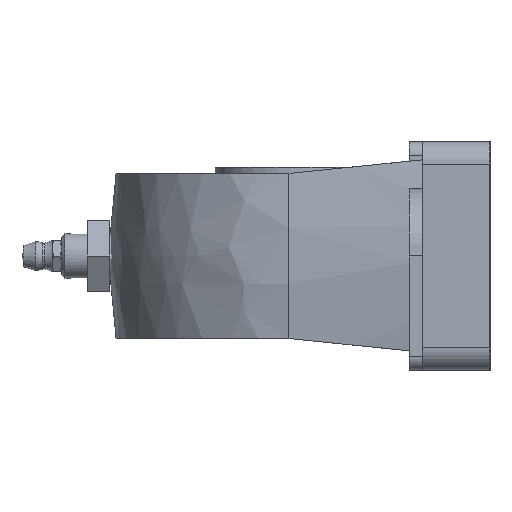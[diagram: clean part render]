
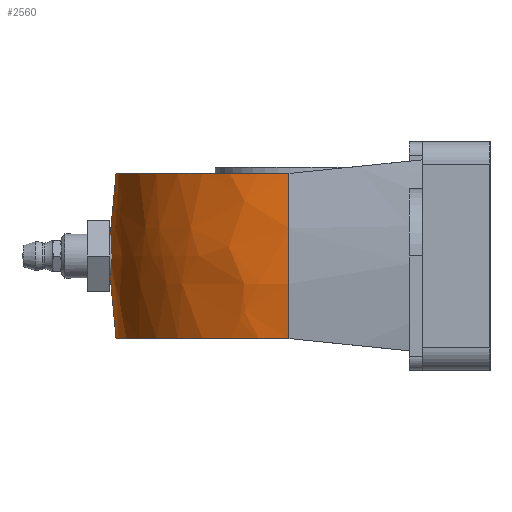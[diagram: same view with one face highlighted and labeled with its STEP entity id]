
A CAD part, left-side view. The second image highlights one B-rep face of the part: STEP entity #2560.
In plain terms, the highlighted free-form (B-spline) face has degree [2, 2] with [3, 5] control points.
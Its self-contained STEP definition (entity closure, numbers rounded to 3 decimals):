
#153=CARTESIAN_POINT('',(0.,40.527,4.188));
#154=VERTEX_POINT('',#153);
#155=CARTESIAN_POINT('',(0.,40.527,4.188));
#156=CARTESIAN_POINT('',(0.,40.527,4.188));
#157=CARTESIAN_POINT('',(-0.001,40.527,4.188));
#158=CARTESIAN_POINT('',(-0.043,40.527,4.188));
#159=CARTESIAN_POINT('',(-0.085,40.527,4.187));
#160=CARTESIAN_POINT('',(-0.188,40.527,4.184));
#161=CARTESIAN_POINT('',(-0.249,40.526,4.181));
#162=CARTESIAN_POINT('',(-0.452,40.525,4.166));
#163=CARTESIAN_POINT('',(-0.594,40.524,4.148));
#164=CARTESIAN_POINT('',(-1.253,40.516,4.031));
#165=CARTESIAN_POINT('',(-1.749,40.504,3.842));
#166=CARTESIAN_POINT('',(-2.628,40.472,3.3));
#167=CARTESIAN_POINT('',(-3.008,40.454,2.958));
#168=CARTESIAN_POINT('',(-3.653,40.419,2.121));
#169=CARTESIAN_POINT('',(-3.899,40.403,1.624));
#170=CARTESIAN_POINT('',(-4.185,40.384,0.568));
#171=CARTESIAN_POINT('',(-4.223,40.381,0.02));
#172=CARTESIAN_POINT('',(-4.092,40.39,-1.025));
#173=CARTESIAN_POINT('',(-3.938,40.401,-1.513));
#174=CARTESIAN_POINT('',(-3.48,40.428,-2.377));
#175=CARTESIAN_POINT('',(-3.191,40.445,-2.753));
#176=CARTESIAN_POINT('',(-2.536,40.475,-3.359));
#177=CARTESIAN_POINT('',(-2.186,40.489,-3.597));
#178=CARTESIAN_POINT('',(-1.532,40.508,-3.909));
#179=CARTESIAN_POINT('',(-1.246,40.515,-4.01));
#180=CARTESIAN_POINT('',(-0.785,40.522,-4.117));
#181=CARTESIAN_POINT('',(-0.616,40.524,-4.146));
#182=CARTESIAN_POINT('',(-0.363,40.526,-4.173));
#183=CARTESIAN_POINT('',(-0.28,40.526,-4.179));
#184=CARTESIAN_POINT('',(-0.15,40.527,-4.186));
#185=CARTESIAN_POINT('',(-0.102,40.527,-4.187));
#186=CARTESIAN_POINT('',(-0.015,40.527,-4.188));
#187=CARTESIAN_POINT('',(0.026,40.527,-4.188));
#188=CARTESIAN_POINT('',(0.115,40.527,-4.187));
#189=CARTESIAN_POINT('',(0.164,40.527,-4.185));
#190=CARTESIAN_POINT('',(0.302,40.526,-4.178));
#191=CARTESIAN_POINT('',(0.392,40.526,-4.171));
#192=CARTESIAN_POINT('',(0.849,40.522,-4.118));
#193=CARTESIAN_POINT('',(1.209,40.516,-4.027));
#194=CARTESIAN_POINT('',(1.965,40.497,-3.725));
#195=CARTESIAN_POINT('',(2.349,40.483,-3.496));
#196=CARTESIAN_POINT('',(3.099,40.45,-2.867));
#197=CARTESIAN_POINT('',(3.44,40.431,-2.448));
#198=CARTESIAN_POINT('',(3.953,40.4,-1.488));
#199=CARTESIAN_POINT('',(4.115,40.388,-0.954));
#200=CARTESIAN_POINT('',(4.219,40.381,0.122));
#201=CARTESIAN_POINT('',(4.17,40.385,0.653));
#202=CARTESIAN_POINT('',(3.887,40.403,1.634));
#203=CARTESIAN_POINT('',(3.668,40.418,2.08));
#204=CARTESIAN_POINT('',(3.109,40.448,2.842));
#205=CARTESIAN_POINT('',(2.785,40.465,3.16));
#206=CARTESIAN_POINT('',(2.094,40.492,3.649));
#207=CARTESIAN_POINT('',(1.741,40.503,3.83));
#208=CARTESIAN_POINT('',(1.168,40.516,4.027));
#209=CARTESIAN_POINT('',(0.964,40.52,4.081));
#210=CARTESIAN_POINT('',(0.608,40.524,4.146));
#211=CARTESIAN_POINT('',(0.458,40.525,4.166));
#212=CARTESIAN_POINT('',(0.247,40.526,4.181));
#213=CARTESIAN_POINT('',(0.187,40.527,4.184));
#214=CARTESIAN_POINT('',(0.084,40.527,4.187));
#215=CARTESIAN_POINT('',(0.042,40.527,4.188));
#216=CARTESIAN_POINT('',(0.,40.527,4.188));
#217=B_SPLINE_CURVE_WITH_KNOTS('',3,(#155,#156,#157,#158,#159,#160,#161,#162,#163,#164,#165,#166,#167,#168,#169,#170,#171,#172,#173,#174,#175,#176,#177,#178,#179,#180,#181,#182,#183,#184,#185,#186,#187,#188,#189,#190,#191,#192,#193,#194,#195,#196,#197,#198,#199,#200,#201,#202,#203,#204,#205,#206,#207,#208,#209,#210,#211,#212,#213,#214,#215,#216),.UNSPECIFIED.,.T.,.U.,(4,2,2,2,2,2,2,2,2,2,2,2,2,2,2,2,2,2,2,2,2,2,2,2,2,2,2,2,2,2,4),(-2.638,-2.638,-2.625,-2.607,-2.564,-2.406,-2.254,-2.089,-1.926,-1.773,-1.632,-1.506,-1.415,-1.364,-1.339,-1.324,-1.312,-1.298,-1.271,-1.16,-1.026,-0.866,-0.7,-0.541,-0.393,-0.258,-0.139,-0.076,-0.031,-0.013,0.0),.UNSPECIFIED.);
#218=EDGE_CURVE('',#154,#154,#217,.T.);
#2290=CARTESIAN_POINT('',(-39.162,0.528,18.5));
#2291=VERTEX_POINT('',#2290);
#2298=CARTESIAN_POINT('',(-39.162,0.528,-18.5));
#2299=VERTEX_POINT('',#2298);
#2300=CARTESIAN_POINT('',(79.393,-1.07,0.));
#2301=DIRECTION('',(-0.013,-1.,0.));
#2302=DIRECTION('',(-0.984,0.013,-0.179));
#2303=AXIS2_PLACEMENT_3D('',#2300,#2301,#2302);
#2304=CIRCLE('',#2303,120.);
#2305=EDGE_CURVE('',#2291,#2299,#2304,.T.);
#2358=CARTESIAN_POINT('',(39.162,0.528,-18.5));
#2359=VERTEX_POINT('',#2358);
#2366=CARTESIAN_POINT('',(39.162,0.528,18.5));
#2367=VERTEX_POINT('',#2366);
#2368=CARTESIAN_POINT('',(-79.393,-1.07,0.));
#2369=DIRECTION('',(-0.013,1.,0.0));
#2370=DIRECTION('',(0.984,0.013,-0.179));
#2371=AXIS2_PLACEMENT_3D('',#2368,#2369,#2370);
#2372=CIRCLE('',#2371,120.);
#2373=EDGE_CURVE('',#2367,#2359,#2372,.T.);
#2463=CARTESIAN_POINT('',(0.0,0.,-18.5));
#2464=DIRECTION('',(0.0,0.0,1.0));
#2465=DIRECTION('',(-1.0,0.0,0.0));
#2466=AXIS2_PLACEMENT_3D('',#2463,#2464,#2465);
#2467=CIRCLE('',#2466,39.165);
#2468=EDGE_CURVE('',#2359,#2299,#2467,.T.);
#2502=CARTESIAN_POINT('',(0.0,0.,18.5));
#2503=DIRECTION('',(0.0,0.0,-1.0));
#2504=DIRECTION('',(-1.0,0.0,0.0));
#2505=AXIS2_PLACEMENT_3D('',#2502,#2503,#2504);
#2506=CIRCLE('',#2505,39.165);
#2507=EDGE_CURVE('',#2291,#2367,#2506,.T.);
#2528=CARTESIAN_POINT('',(39.162,0.509,18.5));
#2529=CARTESIAN_POINT('',(42.048,0.547,0.));
#2530=CARTESIAN_POINT('',(39.162,0.509,-18.5));
#2531=CARTESIAN_POINT('',(38.659,39.165,18.5));
#2532=CARTESIAN_POINT('',(41.509,42.052,0.));
#2533=CARTESIAN_POINT('',(38.659,39.165,-18.5));
#2534=CARTESIAN_POINT('',(0.,39.165,18.5));
#2535=CARTESIAN_POINT('',(0.,42.052,0.));
#2536=CARTESIAN_POINT('',(0.,39.165,-18.5));
#2537=CARTESIAN_POINT('',(-38.659,39.165,18.5));
#2538=CARTESIAN_POINT('',(-41.509,42.052,0.));
#2539=CARTESIAN_POINT('',(-38.659,39.165,-18.5));
#2540=CARTESIAN_POINT('',(-39.162,0.509,18.5));
#2541=CARTESIAN_POINT('',(-42.048,0.547,0.));
#2542=CARTESIAN_POINT('',(-39.162,0.509,-18.5));
#2550=(BOUNDED_SURFACE()B_SPLINE_SURFACE(2,2,((#2528,#2531,#2534,#2537,#2540),(#2529,#2532,#2535,#2538,#2541),(#2530,#2533,#2536,#2539,#2542)),.UNSPECIFIED.,.F.,.F.,.U.)B_SPLINE_SURFACE_WITH_KNOTS((3,3),(3,2,3),(-0.155,0.155),(0.0,1.558,3.116),.UNSPECIFIED.)GEOMETRIC_REPRESENTATION_ITEM()RATIONAL_B_SPLINE_SURFACE(((1.0,0.712,1.0,0.712,1.0),(0.988,0.703,0.988,0.703,0.988),(1.0,0.712,1.0,0.712,1.0)))REPRESENTATION_ITEM('')SURFACE());
#2551=ORIENTED_EDGE('',*,*,#218,.T.);
#2552=EDGE_LOOP('',(#2551));
#2553=FACE_OUTER_BOUND('',#2552,.T.);
#2554=ORIENTED_EDGE('',*,*,#2468,.T.);
#2555=ORIENTED_EDGE('',*,*,#2305,.F.);
#2556=ORIENTED_EDGE('',*,*,#2507,.T.);
#2557=ORIENTED_EDGE('',*,*,#2373,.T.);
#2558=EDGE_LOOP('',(#2554,#2555,#2556,#2557));
#2559=FACE_BOUND('',#2558,.T.);
#2560=ADVANCED_FACE('',(#2553,#2559),#2550,.T.);
